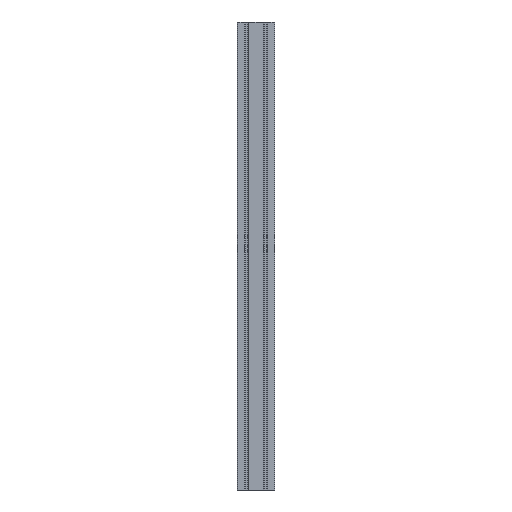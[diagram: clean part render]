
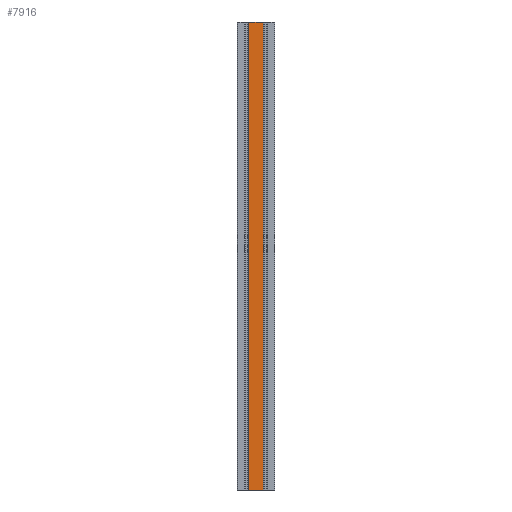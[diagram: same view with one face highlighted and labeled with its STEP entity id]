
A CAD part, front view. The second image highlights one B-rep face of the part: STEP entity #7916.
In plain terms, the highlighted planar face has unit normal (0, -1, 0).
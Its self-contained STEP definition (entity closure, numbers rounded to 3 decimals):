
#7858=CARTESIAN_POINT('',(285.35,130.0,1000.0));
#7859=VERTEX_POINT('',#7858);
#7867=CARTESIAN_POINT('',(285.35,130.0,0.0));
#7868=VERTEX_POINT('',#7867);
#7869=CARTESIAN_POINT('',(285.35,130.0,0.0));
#7870=DIRECTION('',(0.0,0.0,1.0));
#7871=VECTOR('',#7870,1000.0);
#7872=LINE('',#7869,#7871);
#7873=EDGE_CURVE('',#7868,#7859,#7872,.T.);
#7886=CARTESIAN_POINT('',(285.35,130.0,0.0));
#7887=DIRECTION('',(0.0,-1.0,0.0));
#7888=DIRECTION('',(0.0,0.0,-1.0));
#7889=AXIS2_PLACEMENT_3D('',#7886,#7887,#7888);
#7890=PLANE('',#7889);
#7891=CARTESIAN_POINT('',(254.65,130.0,1000.0));
#7892=VERTEX_POINT('',#7891);
#7893=CARTESIAN_POINT('',(285.35,130.0,1000.0));
#7894=DIRECTION('',(-1.0,0.0,0.0));
#7895=VECTOR('',#7894,30.7);
#7896=LINE('',#7893,#7895);
#7897=EDGE_CURVE('',#7859,#7892,#7896,.T.);
#7898=ORIENTED_EDGE('',*,*,#7897,.T.);
#7899=CARTESIAN_POINT('',(254.65,130.0,0.0));
#7900=VERTEX_POINT('',#7899);
#7901=CARTESIAN_POINT('',(254.65,130.0,0.0));
#7902=DIRECTION('',(0.0,0.0,1.0));
#7903=VECTOR('',#7902,1000.0);
#7904=LINE('',#7901,#7903);
#7905=EDGE_CURVE('',#7900,#7892,#7904,.T.);
#7906=ORIENTED_EDGE('',*,*,#7905,.F.);
#7907=CARTESIAN_POINT('',(285.35,130.0,0.0));
#7908=DIRECTION('',(-1.0,0.0,0.0));
#7909=VECTOR('',#7908,30.7);
#7910=LINE('',#7907,#7909);
#7911=EDGE_CURVE('',#7868,#7900,#7910,.T.);
#7912=ORIENTED_EDGE('',*,*,#7911,.F.);
#7913=ORIENTED_EDGE('',*,*,#7873,.T.);
#7914=EDGE_LOOP('',(#7898,#7906,#7912,#7913));
#7915=FACE_OUTER_BOUND('',#7914,.T.);
#7916=ADVANCED_FACE('',(#7915),#7890,.T.);
